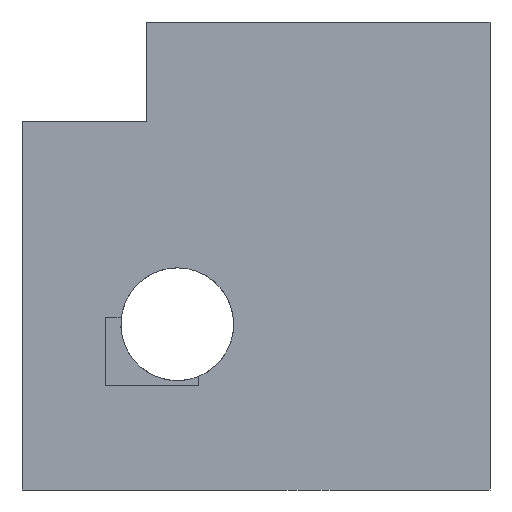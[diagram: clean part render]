
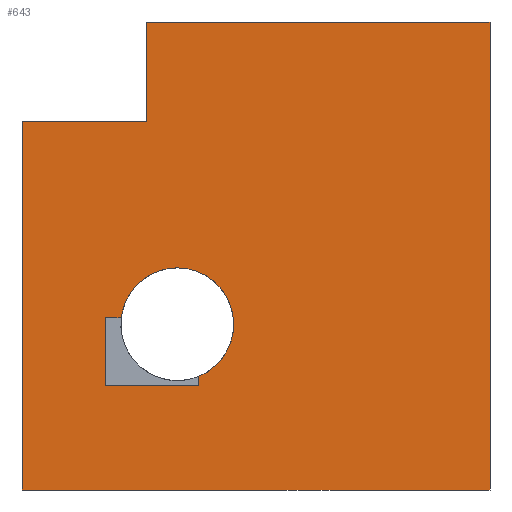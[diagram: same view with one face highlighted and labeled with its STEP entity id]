
A CAD part, front view. The second image highlights one B-rep face of the part: STEP entity #643.
In plain terms, the highlighted planar face has unit normal (0, -1, 0).
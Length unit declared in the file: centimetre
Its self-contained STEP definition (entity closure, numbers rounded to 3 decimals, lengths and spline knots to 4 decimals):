
#19 = LINE ( 'NONE', #744, #980 ) ;
#40 = ORIENTED_EDGE ( 'NONE', *, *, #579, .F. ) ;
#77 = VECTOR ( 'NONE', #870, 100. ) ;
#78 = ORIENTED_EDGE ( 'NONE', *, *, #1040, .F. ) ;
#101 = DIRECTION ( 'NONE',  ( 0., 0., -1. ) ) ;
#103 = VECTOR ( 'NONE', #1038, 100. ) ;
#146 = CARTESIAN_POINT ( 'NONE',  ( 0., 0., 786.6325 ) ) ;
#148 = EDGE_CURVE ( 'NONE', #776, #313, #717, .T. ) ;
#156 = CARTESIAN_POINT ( 'NONE',  ( 377.4129, 0., 222.6573 ) ) ;
#158 = VECTOR ( 'NONE', #161, 100. ) ;
#161 = DIRECTION ( 'NONE',  ( 1., 0., 0. ) ) ;
#177 = DIRECTION ( 'NONE',  ( 0., 1., 0. ) ) ;
#198 = CARTESIAN_POINT ( 'NONE',  ( 177.9168, 0., 368.0304 ) ) ;
#205 = CARTESIAN_POINT ( 'NONE',  ( 266.3639, 0., 1000. ) ) ;
#208 = AXIS2_PLACEMENT_3D ( 'NONE', #653, #982, #257 ) ;
#218 = LINE ( 'NONE', #295, #845 ) ;
#222 = CARTESIAN_POINT ( 'NONE',  ( 1000., 0., 1000. ) ) ;
#233 = VERTEX_POINT ( 'NONE', #983 ) ;
#247 = CARTESIAN_POINT ( 'NONE',  ( 177.9168, 0., 222.6573 ) ) ;
#253 = FACE_BOUND ( 'NONE', #1009, .T. ) ;
#257 = DIRECTION ( 'NONE',  ( 0., 0., -1. ) ) ;
#260 = VERTEX_POINT ( 'NONE', #751 ) ;
#277 = CARTESIAN_POINT ( 'NONE',  ( 1000., 0., 0. ) ) ;
#294 = ORIENTED_EDGE ( 'NONE', *, *, #649, .F. ) ;
#295 = CARTESIAN_POINT ( 'NONE',  ( 0., 0., 786.6325 ) ) ;
#313 = VERTEX_POINT ( 'NONE', #909 ) ;
#317 = EDGE_CURVE ( 'NONE', #872, #260, #836, .T. ) ;
#321 = DIRECTION ( 'NONE',  ( 0., 0., -1. ) ) ;
#346 = ORIENTED_EDGE ( 'NONE', *, *, #735, .F. ) ;
#353 = ORIENTED_EDGE ( 'NONE', *, *, #703, .T. ) ;
#380 = DIRECTION ( 'NONE',  ( 0., 0., -1. ) ) ;
#386 = ORIENTED_EDGE ( 'NONE', *, *, #597, .F. ) ;
#424 = CARTESIAN_POINT ( 'NONE',  ( 212.0341, 0., 368.0304 ) ) ;
#426 = CIRCLE ( 'NONE', #208, 120.5308 ) ;
#438 = VECTOR ( 'NONE', #782, 100. ) ;
#449 = CARTESIAN_POINT ( 'NONE',  ( 266.3639, 0., 786.6325 ) ) ;
#456 = DIRECTION ( 'NONE',  ( -1., 0., 0. ) ) ;
#464 = ORIENTED_EDGE ( 'NONE', *, *, #652, .F. ) ;
#468 = ORIENTED_EDGE ( 'NONE', *, *, #918, .T. ) ;
#471 = VECTOR ( 'NONE', #661, 100. ) ;
#474 = ORIENTED_EDGE ( 'NONE', *, *, #878, .F. ) ;
#476 = CARTESIAN_POINT ( 'NONE',  ( 0., 0., 0. ) ) ;
#487 = CARTESIAN_POINT ( 'NONE',  ( 0., 0., 1000. ) ) ;
#491 = VECTOR ( 'NONE', #456, 100. ) ;
#500 = FACE_OUTER_BOUND ( 'NONE', #952, .T. ) ;
#507 = VERTEX_POINT ( 'NONE', #222 ) ;
#537 = EDGE_CURVE ( 'NONE', #547, #868, #616, .T. ) ;
#542 = ORIENTED_EDGE ( 'NONE', *, *, #317, .F. ) ;
#547 = VERTEX_POINT ( 'NONE', #476 ) ;
#550 = CARTESIAN_POINT ( 'NONE',  ( 377.4129, 0., 222.6573 ) ) ;
#553 = CARTESIAN_POINT ( 'NONE',  ( 1000., 0., 1000. ) ) ;
#568 = CARTESIAN_POINT ( 'NONE',  ( 331.7712, 0., 354.2215 ) ) ;
#572 = AXIS2_PLACEMENT_3D ( 'NONE', #568, #733, #101 ) ;
#579 = EDGE_CURVE ( 'NONE', #581, #233, #863, .T. ) ;
#581 = VERTEX_POINT ( 'NONE', #156 ) ;
#583 = PLANE ( 'NONE',  #654 ) ;
#597 = EDGE_CURVE ( 'NONE', #776, #507, #699, .T. ) ;
#616 = LINE ( 'NONE', #1026, #158 ) ;
#625 = LINE ( 'NONE', #553, #438 ) ;
#630 = VERTEX_POINT ( 'NONE', #888 ) ;
#643 = ADVANCED_FACE ( 'NONE', ( #253, #500 ), #583, .F. ) ;
#649 = EDGE_CURVE ( 'NONE', #260, #581, #894, .T. ) ;
#652 = EDGE_CURVE ( 'NONE', #233, #630, #761, .T. ) ;
#653 = CARTESIAN_POINT ( 'NONE',  ( 331.7712, 0., 354.2215 ) ) ;
#654 = AXIS2_PLACEMENT_3D ( 'NONE', #487, #177, #820 ) ;
#658 = ORIENTED_EDGE ( 'NONE', *, *, #148, .T. ) ;
#661 = DIRECTION ( 'NONE',  ( 1., 0., 0. ) ) ;
#693 = LINE ( 'NONE', #937, #491 ) ;
#699 = LINE ( 'NONE', #944, #745 ) ;
#701 = VERTEX_POINT ( 'NONE', #424 ) ;
#703 = EDGE_CURVE ( 'NONE', #886, #547, #19, .T. ) ;
#717 = LINE ( 'NONE', #449, #103 ) ;
#720 = VECTOR ( 'NONE', #380, 100. ) ;
#733 = DIRECTION ( 'NONE',  ( 0., -1., 0. ) ) ;
#735 = EDGE_CURVE ( 'NONE', #630, #701, #426, .T. ) ;
#744 = CARTESIAN_POINT ( 'NONE',  ( 0., 0., 1000. ) ) ;
#745 = VECTOR ( 'NONE', #970, 100. ) ;
#751 = CARTESIAN_POINT ( 'NONE',  ( 177.9168, 0., 222.6573 ) ) ;
#761 = CIRCLE ( 'NONE', #572, 120.5308 ) ;
#776 = VERTEX_POINT ( 'NONE', #205 ) ;
#782 = DIRECTION ( 'NONE',  ( 0., 0., -1. ) ) ;
#787 = DIRECTION ( 'NONE',  ( -1., 0., 0. ) ) ;
#820 = DIRECTION ( 'NONE',  ( 0., 0., 1. ) ) ;
#823 = ORIENTED_EDGE ( 'NONE', *, *, #537, .T. ) ;
#836 = LINE ( 'NONE', #854, #720 ) ;
#845 = VECTOR ( 'NONE', #787, 100. ) ;
#854 = CARTESIAN_POINT ( 'NONE',  ( 177.9168, 0., 222.6573 ) ) ;
#863 = LINE ( 'NONE', #550, #77 ) ;
#868 = VERTEX_POINT ( 'NONE', #277 ) ;
#870 = DIRECTION ( 'NONE',  ( 0., 0., 1. ) ) ;
#872 = VERTEX_POINT ( 'NONE', #198 ) ;
#878 = EDGE_CURVE ( 'NONE', #507, #868, #625, .T. ) ;
#886 = VERTEX_POINT ( 'NONE', #146 ) ;
#888 = CARTESIAN_POINT ( 'NONE',  ( 331.7712, 0., 474.7523 ) ) ;
#894 = LINE ( 'NONE', #247, #471 ) ;
#909 = CARTESIAN_POINT ( 'NONE',  ( 266.3639, 0., 786.6325 ) ) ;
#918 = EDGE_CURVE ( 'NONE', #313, #886, #218, .T. ) ;
#937 = CARTESIAN_POINT ( 'NONE',  ( 177.9168, 0., 368.0304 ) ) ;
#944 = CARTESIAN_POINT ( 'NONE',  ( 0., 0., 1000. ) ) ;
#952 = EDGE_LOOP ( 'NONE', ( #658, #468, #353, #823, #474, #386 ) ) ;
#970 = DIRECTION ( 'NONE',  ( 1., 0., 0. ) ) ;
#980 = VECTOR ( 'NONE', #321, 100. ) ;
#982 = DIRECTION ( 'NONE',  ( 0., -1., 0. ) ) ;
#983 = CARTESIAN_POINT ( 'NONE',  ( 377.4129, 0., 242.6666 ) ) ;
#1009 = EDGE_LOOP ( 'NONE', ( #78, #346, #464, #40, #294, #542 ) ) ;
#1026 = CARTESIAN_POINT ( 'NONE',  ( 0., 0., 0. ) ) ;
#1038 = DIRECTION ( 'NONE',  ( 0., 0., -1. ) ) ;
#1040 = EDGE_CURVE ( 'NONE', #701, #872, #693, .T. ) ;
